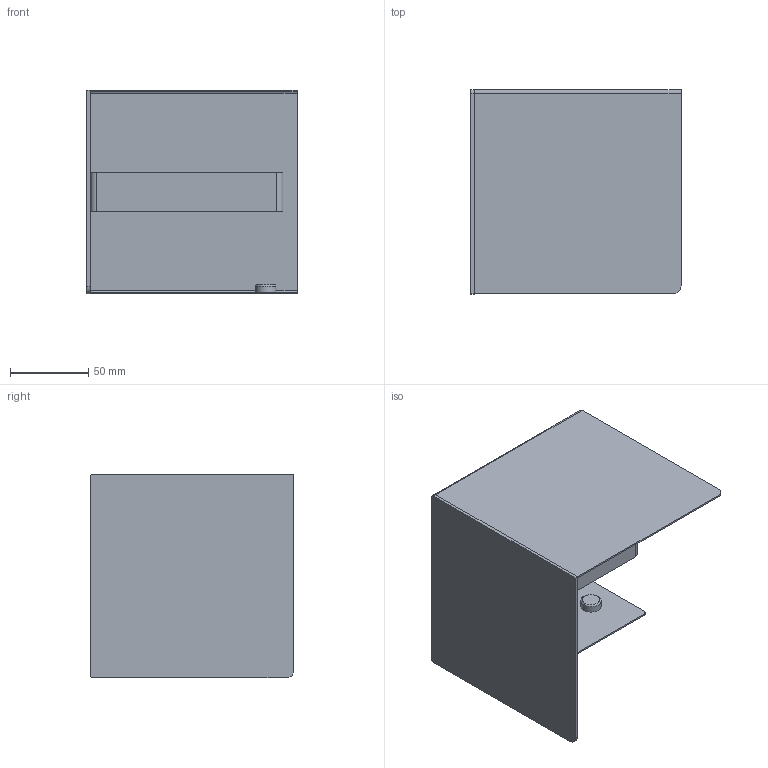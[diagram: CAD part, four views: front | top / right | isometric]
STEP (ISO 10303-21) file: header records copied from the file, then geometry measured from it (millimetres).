
FILE_DESCRIPTION (( 'STEP AP214' ), '1' );
FILE_NAME ('Uchwyt na papier toaletowy CUBO.STEP', '2023-09-12T09:31:31', ( '' ), ( '' ), 'SwSTEP 2.0', 'SolidWorks 2021', '' );
FILE_SCHEMA (( 'AUTOMOTIVE_DESIGN' ));
Length unit declared in the file: millimetre
Products named in the file (5): 09-003-0250-W-01-02; 03-005-0130-W-00-02 Do wizualizacji; 03-005-0130-W-00-01; zaœlepka œruby 13mm; Uchwyt na papier toaletowy CUBO
Assembly tree (4 placements, depth 2):
  Uchwyt na papier toaletowy CUBO
    03-005-0130-W-00-01
    09-003-0250-W-01-02
    03-005-0130-W-00-02 Do wizualizacji
    zaœlepka œruby 13mm
Bounding box: 134 x 130 x 130 mm (x, y, z)
Volume: 83780.2 mm3; surface area: 127917.5 mm2
Topology: 4 solids, 4 shells, 71 faces, 155 edges, 92 vertices
Faces by surface type: plane 46, cylinder 23, torus 2
Entity records: 2113 total; most frequent: DIRECTION 361, CARTESIAN_POINT 325, ORIENTED_EDGE 310, EDGE_CURVE 155, AXIS2_PLACEMENT_3D 128, LINE 105, VECTOR 105, VERTEX_POINT 92
